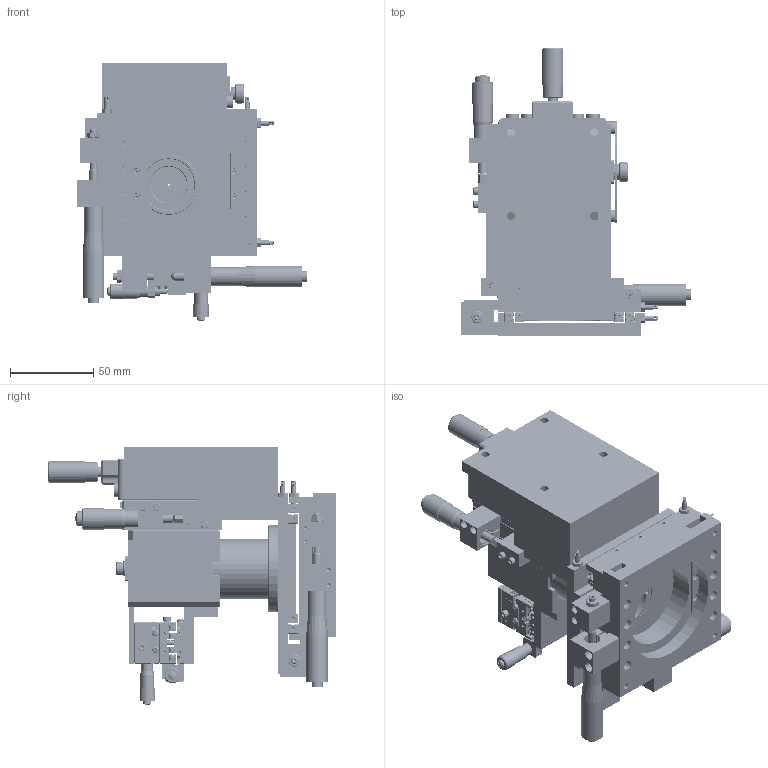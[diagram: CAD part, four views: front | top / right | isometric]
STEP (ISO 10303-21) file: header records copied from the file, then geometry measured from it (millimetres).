
FILE_DESCRIPTION (( 'STEP AP214' ), '1' );
FILE_NAME ('XY噩芛賑怢.STEP', '2026-09-15T08:25:29', ( '' ), ( '' ), 'SwSTEP 2.0', 'SolidWorks 2024', '' );
FILE_SCHEMA (( 'AUTOMOTIVE_DESIGN' ));
Length unit declared in the file: millimetre
Products named in the file (31): BTA_SLMNA-M3.stp; 光纤法兰; lo-hlu-6.5-2_1 (4).step; 零件3; ZJ110-15____.STEP; BTA-D3-L15_base.stp; 微分头顶块; nv2-60.step; BTA-D3-L15.stp; 零件9; SJ110-15____.STEP; 零件22; 零件21; 零件6; 零件7; SJ110-15______.STEP; 零件2; LO-HGJ-15(M)_1 (1).STEP; 零件5; SP110-25-65H______.STEP; 微分头锁紧块; lo-hlu-6_1 (1).step; XY镜头滑台; hex socket set screws with flat point gb222_GB_FASTENER_SCREWS_HSFP M4X20-N; SJ110-15 ______________.STEP; 小型XSR-25B（圆头）; hex nuts, style 1-grades ab gb_GB_FASTENER_NUT_SNAB1 M4-N; M31×1卡环; SJ110-15 ______________ .STEP; 零件1; SP110-13-65H________.STEP
Assembly tree (50 placements, depth 3):
  XY镜头滑台
    零件5
    nv2-60.step  x8
    零件6
    零件7
    小型XSR-25B（圆头）  x2
    微分头锁紧块  x2
    微分头顶块  x2
    hex socket set screws with flat point gb222_GB_FASTENER_SCREWS_HSFP M4X20-N  x2
    hex nuts, style 1-grades ab gb_GB_FASTENER_NUT_SNAB1 M4-N  x2
    零件9
    lo-hlu-6.5-2_1 (4).step
    零件1
    零件2
    零件3
    M31×1卡环
    LO-HGJ-15(M)_1 (1).STEP
      SJ110-15 ______________.STEP
      SJ110-15 ______________ .STEP
      ZJ110-15____.STEP  x4
      SJ110-15______.STEP
      SJ110-15____.STEP  x2
      SP110-13-65H________.STEP
      SP110-25-65H______.STEP
    lo-hlu-6_1 (1).step  x2
    零件21
    零件22
    光纤法兰
    BTA-D3-L15.stp  x4
      BTA-D3-L15_base.stp
      BTA_SLMNA-M3.stp
Bounding box: 138 x 173 x 154.69 mm (x, y, z)
Volume: 576100.5 mm3; surface area: 269400.7 mm2
Topology: 132 solids, 132 shells, 5740 faces, 14030 edges, 8658 vertices
Faces by surface type: plane 2933, cylinder 1526, cone 924, torus 276, sphere 46, bspline 35
Entity records: 105515 total; most frequent: CARTESIAN_POINT 27373, ORIENTED_EDGE 15944, DIRECTION 15698, EDGE_CURVE 7972, AXIS2_PLACEMENT_3D 5888, VERTEX_POINT 5080, VECTOR 3922, LINE 3922
